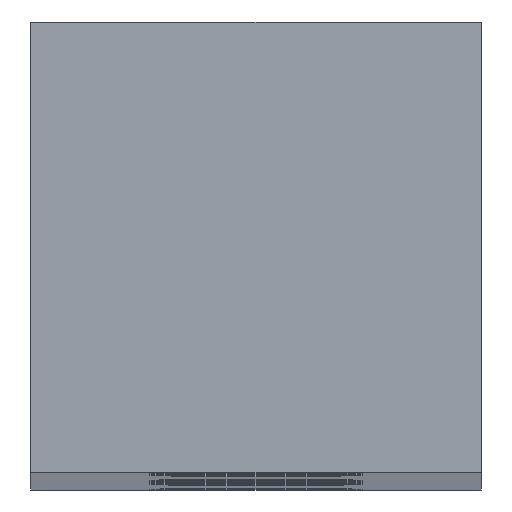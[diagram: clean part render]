
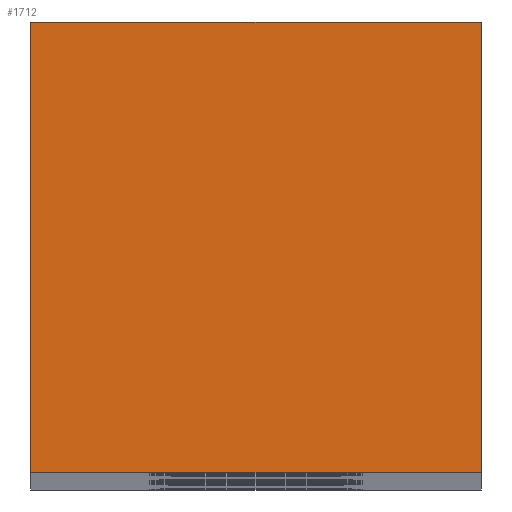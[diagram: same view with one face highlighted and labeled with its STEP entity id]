
A CAD part, top view. The second image highlights one B-rep face of the part: STEP entity #1712.
In plain terms, the highlighted planar face has unit normal (0, 0, 1).
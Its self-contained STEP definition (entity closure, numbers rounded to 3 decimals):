
#86 = ORIENTED_EDGE ( 'NONE', *, *, #1186, .T. ) ;
#88 = CARTESIAN_POINT ( 'NONE',  ( -3.5, 3.5, 0. ) ) ;
#94 = VERTEX_POINT ( 'NONE', #88 ) ;
#128 = CARTESIAN_POINT ( 'NONE',  ( 3.5, -3.5, 0. ) ) ;
#172 = VECTOR ( 'NONE', #2041, 1000. ) ;
#201 = LINE ( 'NONE', #2019, #172 ) ;
#240 = LINE ( 'NONE', #128, #901 ) ;
#369 = VECTOR ( 'NONE', #1474, 1000. ) ;
#436 = DIRECTION ( 'NONE',  ( 1., 0., 0. ) ) ;
#504 = VECTOR ( 'NONE', #2185, 1000. ) ;
#531 = AXIS2_PLACEMENT_3D ( 'NONE', #1896, #1860, #1851 ) ;
#680 = EDGE_LOOP ( 'NONE', ( #2367, #86, #1338, #1923 ) ) ;
#740 = LINE ( 'NONE', #1445, #369 ) ;
#901 = VECTOR ( 'NONE', #436, 1000. ) ;
#1119 = EDGE_CURVE ( 'NONE', #94, #2359, #2081, .T. ) ;
#1186 = EDGE_CURVE ( 'NONE', #2359, #2430, #240, .T. ) ;
#1319 = EDGE_CURVE ( 'NONE', #1518, #94, #740, .T. ) ;
#1338 = ORIENTED_EDGE ( 'NONE', *, *, #1382, .T. ) ;
#1382 = EDGE_CURVE ( 'NONE', #2430, #1518, #201, .T. ) ;
#1445 = CARTESIAN_POINT ( 'NONE',  ( 3.5, 3.5, 0. ) ) ;
#1474 = DIRECTION ( 'NONE',  ( -1., 0., 0. ) ) ;
#1507 = CARTESIAN_POINT ( 'NONE',  ( -3.5, -3.5, 0. ) ) ;
#1518 = VERTEX_POINT ( 'NONE', #1921 ) ;
#1562 = FACE_OUTER_BOUND ( 'NONE', #680, .T. ) ;
#1712 = ADVANCED_FACE ( 'NONE', ( #1562 ), #2082, .T. ) ;
#1851 = DIRECTION ( 'NONE',  ( 1., 0., 0. ) ) ;
#1860 = DIRECTION ( 'NONE',  ( 0., 0., 1. ) ) ;
#1896 = CARTESIAN_POINT ( 'NONE',  ( -3.5, 3.5, 0. ) ) ;
#1921 = CARTESIAN_POINT ( 'NONE',  ( 3.5, 3.5, 0. ) ) ;
#1923 = ORIENTED_EDGE ( 'NONE', *, *, #1319, .T. ) ;
#2005 = CARTESIAN_POINT ( 'NONE',  ( 3.5, -3.5, 0. ) ) ;
#2019 = CARTESIAN_POINT ( 'NONE',  ( 3.5, -3.5, 0. ) ) ;
#2041 = DIRECTION ( 'NONE',  ( 0., 1., 0. ) ) ;
#2081 = LINE ( 'NONE', #2268, #504 ) ;
#2082 = PLANE ( 'NONE',  #531 ) ;
#2185 = DIRECTION ( 'NONE',  ( 0., -1., 0. ) ) ;
#2268 = CARTESIAN_POINT ( 'NONE',  ( -3.5, -3.5, 0. ) ) ;
#2359 = VERTEX_POINT ( 'NONE', #1507 ) ;
#2367 = ORIENTED_EDGE ( 'NONE', *, *, #1119, .T. ) ;
#2430 = VERTEX_POINT ( 'NONE', #2005 ) ;
